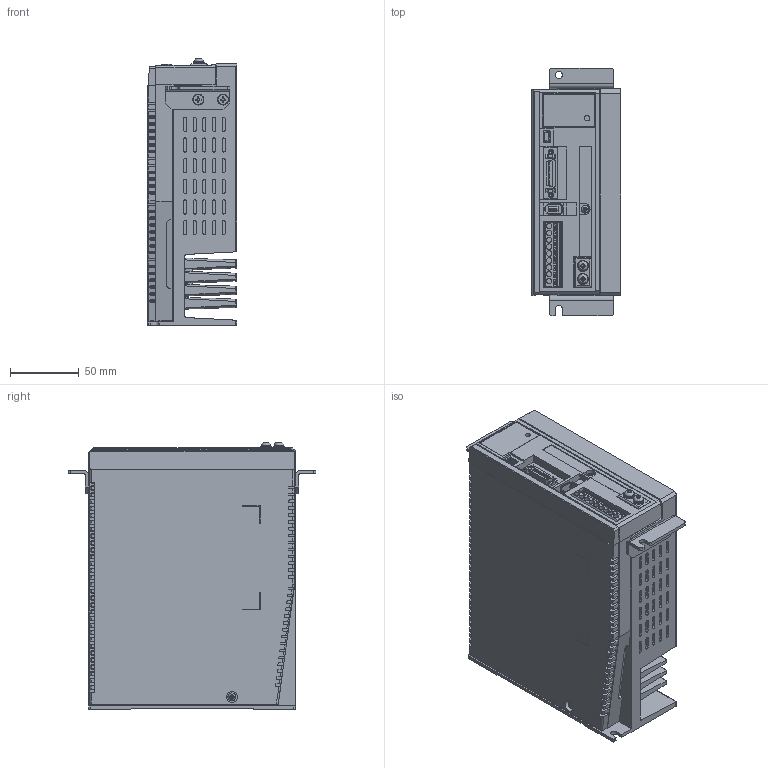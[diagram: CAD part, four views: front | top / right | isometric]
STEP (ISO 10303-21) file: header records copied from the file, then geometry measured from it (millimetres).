
FILE_DESCRIPTION( ( 'STEP AP214' ), '1' );
FILE_NAME( 'p:/temp/worker_804/temp/exporttempdir_268_89_AJP2c/format_0/MCDJT3220.stp', '2020-04-27T15:10:43', ( 'License CC BY-ND 4.0' ), ( 'CADENAS' ), ' ', 'PARTsolutions', ' ' );
FILE_SCHEMA( ( 'AUTOMOTIVE_DESIGN { 1 0 10303 214 1 1 1 1 }' ) );
Length unit declared in the file: millimetre
Products named in the file (1): _MCDJT3220
Bounding box: 65 x 180 x 193.7 mm (x, y, z)
Volume: 1598940.1 mm3; surface area: 236528.7 mm2
Topology: 1 solids, 1 shells, 2282 faces, 6104 edges, 4054 vertices
Faces by surface type: plane 1517, cylinder 713, cone 28, torus 21, bspline 3
Full cylindrical faces by diameter (mm): 2.013 x2, 3.8 x2, 3.9 x1, 4 x9, 5.2 x4, 5.31 x2, 5.8 x2, 7 x2, 7.1 x2, 7.4 x4, 8 x3
Entity records: 90031 total; most frequent: CARTESIAN_POINT 13751, ORIENTED_EDGE 12098, DIRECTION 11908, EDGE_CURVE 6049, LINE 4410, VECTOR 4410, VERTEX_POINT 4046, AXIS2_PLACEMENT_3D 3749
